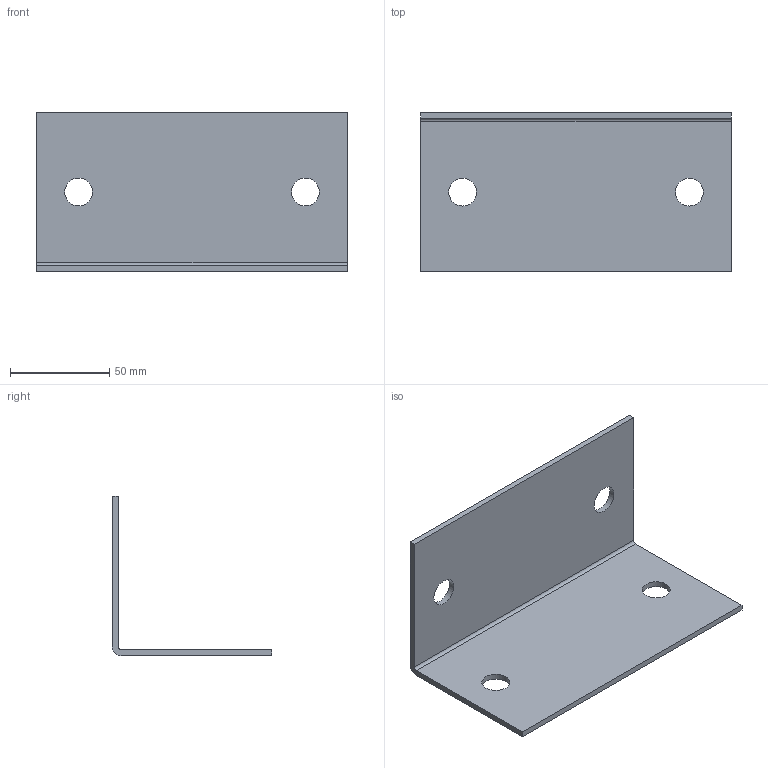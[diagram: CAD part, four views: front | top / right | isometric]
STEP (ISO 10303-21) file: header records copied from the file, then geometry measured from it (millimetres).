
FILE_DESCRIPTION(('STEP AP203'),'2;1');
FILE_NAME ('V160_1','2024-10-30T15:00:16',( 'GRAITEC PowerPack for Autodesk Advance Steel' ),( '' ),'Eyeshot 2024.2.342', '', '');
FILE_SCHEMA(('CONFIG_CONTROL_DESIGN'));
Length unit declared in the file: millimetre
Bounding box: 156 x 80 x 80 mm (x, y, z)
Volume: 71025.6 mm3; surface area: 49748.5 mm2
Topology: 1 solids, 1 shells, 14 faces, 36 edges, 24 vertices
Faces by surface type: plane 8, cylinder 6
Full cylindrical faces by diameter (mm): 14.002 x4
Entity records: 441 total; most frequent: DIRECTION 72, CARTESIAN_POINT 70, ORIENTED_EDGE 64, EDGE_CURVE 32, AXIS2_PLACEMENT_3D 26, EDGE_LOOP 26, VERTEX_POINT 24, VECTOR 20
